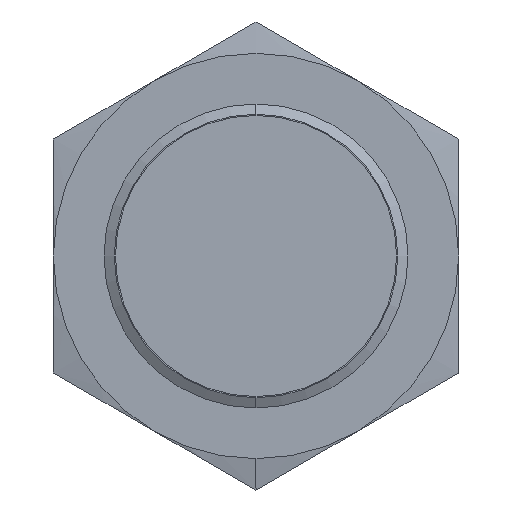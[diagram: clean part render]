
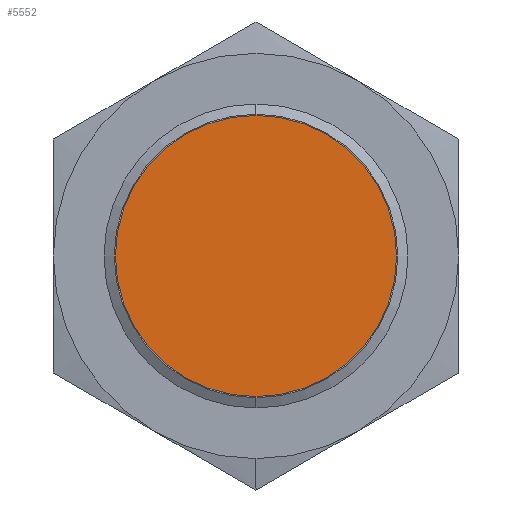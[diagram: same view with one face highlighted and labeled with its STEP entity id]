
A CAD part, left-side view. The second image highlights one B-rep face of the part: STEP entity #5552.
In plain terms, the highlighted planar face has unit normal (-1, 0, 0).
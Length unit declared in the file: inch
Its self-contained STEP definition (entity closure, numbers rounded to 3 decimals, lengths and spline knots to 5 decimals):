
#254 = VERTEX_POINT ( 'NONE', #7384 ) ;
#485 = EDGE_CURVE ( 'NONE', #254, #11788, #7449, .T. ) ;
#1696 = CARTESIAN_POINT ( 'NONE',  ( 7.30468, 8.12049, 0. ) ) ;
#4590 = EDGE_CURVE ( 'NONE', #11788, #254, #9053, .T. ) ;
#4993 = ORIENTED_EDGE ( 'NONE', *, *, #4590, .F. ) ;
#5391 = ORIENTED_EDGE ( 'NONE', *, *, #485, .F. ) ;
#5492 = EDGE_LOOP ( 'NONE', ( #5391, #4993 ) ) ;
#5552 = ADVANCED_FACE ( 'NONE', ( #10568 ), #10569, .F. ) ;
#7384 = CARTESIAN_POINT ( 'NONE',  ( 7.30468, 8.77549, 0. ) ) ;
#7449 = CIRCLE ( 'NONE', #7450, 0.3275 ) ;
#7450 = AXIS2_PLACEMENT_3D ( 'NONE', #7451, #7452, #7453 ) ;
#7451 = CARTESIAN_POINT ( 'NONE',  ( 7.30468, 8.44799, 0. ) ) ;
#7452 = DIRECTION ( 'NONE',  ( 1., 0., 0. ) ) ;
#7453 = DIRECTION ( 'NONE',  ( 0., 1., 0. ) ) ;
#9053 = CIRCLE ( 'NONE', #9054, 0.3275 ) ;
#9054 = AXIS2_PLACEMENT_3D ( 'NONE', #9055, #9056, #9057 ) ;
#9055 = CARTESIAN_POINT ( 'NONE',  ( 7.30468, 8.44799, 0. ) ) ;
#9056 = DIRECTION ( 'NONE',  ( 1., 0., 0. ) ) ;
#9057 = DIRECTION ( 'NONE',  ( 0., 1., 0. ) ) ;
#10568 = FACE_OUTER_BOUND ( 'NONE', #5492, .T. ) ;
#10569 = PLANE ( 'NONE',  #10570 ) ;
#10570 = AXIS2_PLACEMENT_3D ( 'NONE', #10571, #10572, #10573 ) ;
#10571 = CARTESIAN_POINT ( 'NONE',  ( 7.30468, 8.44799, 0. ) ) ;
#10572 = DIRECTION ( 'NONE',  ( 1., 0., 0. ) ) ;
#10573 = DIRECTION ( 'NONE',  ( 0., 1., 0. ) ) ;
#11788 = VERTEX_POINT ( 'NONE', #1696 ) ;
